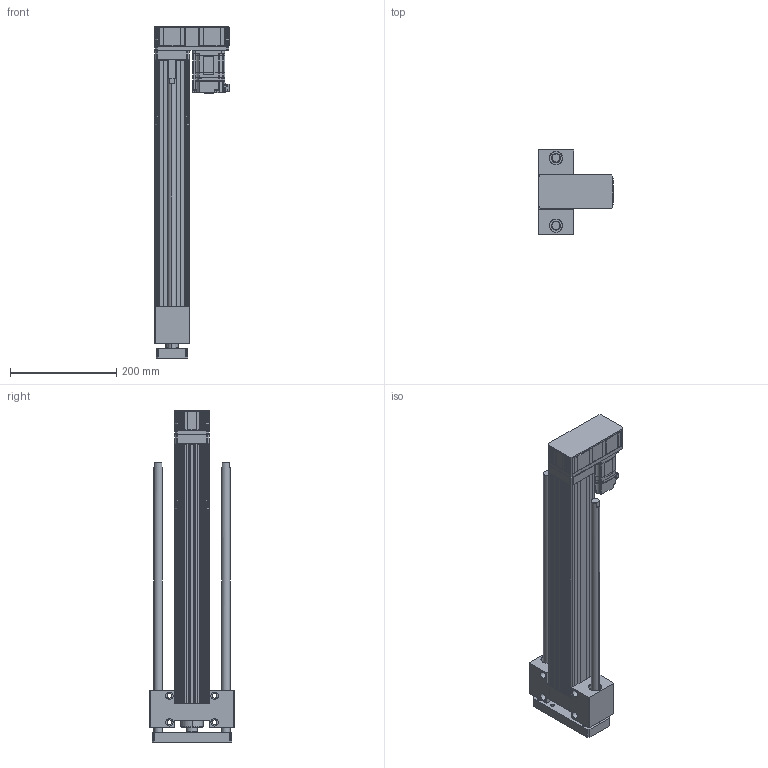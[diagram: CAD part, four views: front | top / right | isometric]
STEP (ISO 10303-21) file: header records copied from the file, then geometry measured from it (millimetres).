
FILE_DESCRIPTION (( 'STEP AP203' ), '1' );
FILE_NAME ('ANS065-HP400-05(10)-W20.STEP', '2019-03-01T05:54:48', ( 'user' ), ( '' ), 'SwSTEP 2.0', 'SolidWorks 2013', '' );
FILE_SCHEMA (( 'CONFIG_CONTROL_DESIGN' ));
Length unit declared in the file: millimetre
Products named in the file (4): ANS065 HP400 VER2; ANS065 ROD ST400 G; sgmjv_02a_a21; ANS065-HP400-05(10)-W20
Assembly tree (3 placements, depth 2):
  ANS065-HP400-05(10)-W20
    ANS065 HP400 VER2
    ANS065 ROD ST400 G
    sgmjv_02a_a21
Bounding box: 140.3 x 160 x 624.5 mm (x, y, z)
Volume: 2414548.4 mm3; surface area: 596922.9 mm2
Topology: 3 solids, 7 shells, 1458 faces, 3875 edges, 2502 vertices
Faces by surface type: plane 896, cylinder 452, cone 110
Entity records: 45387 total; most frequent: CARTESIAN_POINT 8127, ORIENTED_EDGE 7710, DIRECTION 7657, EDGE_CURVE 3855, LINE 2793, VECTOR 2793, VERTEX_POINT 2502, AXIS2_PLACEMENT_3D 2432
